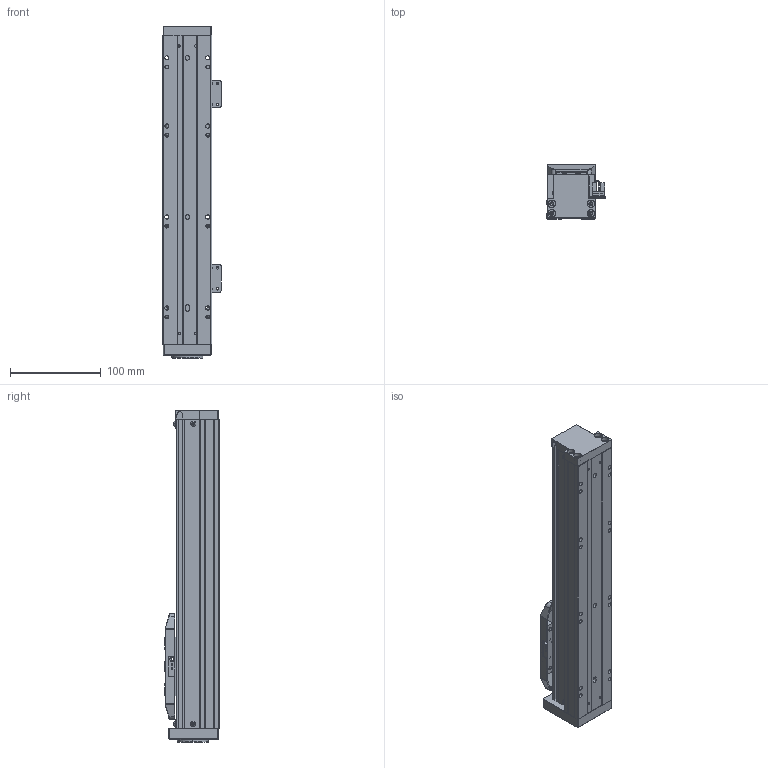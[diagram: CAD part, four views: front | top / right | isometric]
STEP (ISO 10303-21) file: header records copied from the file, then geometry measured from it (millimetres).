
FILE_DESCRIPTION (( 'STEP AP203' ), '1' );
FILE_NAME ('KTH5-L10-S200.STEP', '2019-12-19T08:16:42', ( '微软用户' ), ( '微软中国' ), 'SwSTEP 2.0', 'SolidWorks 2017', '' );
FILE_SCHEMA (( 'CONFIG_CONTROL_DESIGN' ));
Length unit declared in the file: millimetre
Products named in the file (16): 階裔; GB╱T 70.1-2008[内六角圆柱头螺钉M4×16]_M4×16; 棠沭; GB╱T 70.2-2008[内六角平圆头螺钉M3×10]_M3×10; LES50-013癹弇菜; ヶ裔-党蜊唳; 詩湍; 粣創釱-郔笝唳20190813; 嫖萇羲壽諉揖え; LES50-001菁釱; EE-SX674; LES50-004賑釱; EE-SX674WR嫖萇羲壽假蚾啣; KTH5-L10-S200; 耜啣; 詩湍揤啣
Assembly tree (31 placements, depth 2):
  KTH5-L10-S200
    LES50-001菁釱
    LES50-004賑釱
    耜啣  x2
    階裔
    棠沭  x2
    LES50-013癹弇菜  x2
    詩湍
    詩湍揤啣  x2
    GB╱T 70.1-2008[内六角圆柱头螺钉M4×16]_M4×16  x4
    GB╱T 70.2-2008[内六角平圆头螺钉M3×10]_M3×10  x8
    ヶ裔-党蜊唳
    粣創釱-郔笝唳20190813
    嫖萇羲壽諉揖え
    EE-SX674  x2
    EE-SX674WR嫖萇羲壽假蚾啣  x2
Bounding box: 64.25 x 60 x 365 mm (x, y, z)
Volume: 402573.2 mm3; surface area: 224127.2 mm2
Topology: 31 solids, 31 shells, 1369 faces, 3308 edges, 2030 vertices
Faces by surface type: plane 654, cylinder 431, cone 220, torus 36, sphere 16, bspline 12
Entity records: 31298 total; most frequent: CARTESIAN_POINT 5577, DIRECTION 5068, ORIENTED_EDGE 4708, EDGE_CURVE 2354, AXIS2_PLACEMENT_3D 1776, VECTOR 1516, LINE 1516, VERTEX_POINT 1495
